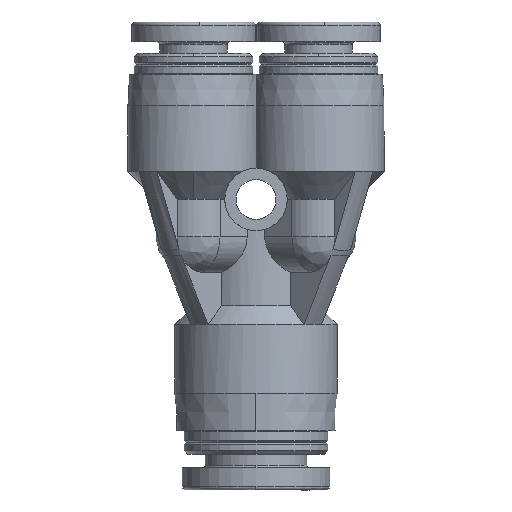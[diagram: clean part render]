
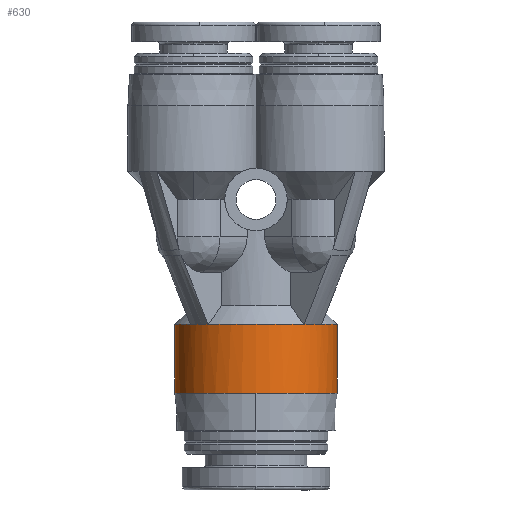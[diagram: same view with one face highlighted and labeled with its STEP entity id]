
A CAD part, front view. The second image highlights one B-rep face of the part: STEP entity #630.
In plain terms, the highlighted cylindrical face has radius 6.5 mm (diameter 13 mm), a partial arc.
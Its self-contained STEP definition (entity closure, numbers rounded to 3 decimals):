
#21 = CIRCLE ( 'NONE', #826, 6.5 ) ;
#215 = ORIENTED_EDGE ( 'NONE', *, *, #3626, .T. ) ;
#462 = VERTEX_POINT ( 'NONE', #7242 ) ;
#572 = B_SPLINE_CURVE_WITH_KNOTS ( 'NONE', 3,
 ( #2315, #4683, #1646, #8461 ),
 .UNSPECIFIED., .F., .F.,
 ( 4, 4 ),
 ( 0., 0.002 ),
 .UNSPECIFIED. ) ;
#630 = ADVANCED_FACE ( '112', ( #6732 ), #740, .T. ) ;
#637 = CARTESIAN_POINT ( 'NONE',  ( -3.834, -5.249, -10. ) ) ;
#726 = VERTEX_POINT ( 'NONE', #1402 ) ;
#740 = CYLINDRICAL_SURFACE ( 'NONE', #6480, 6.5 ) ;
#826 = AXIS2_PLACEMENT_3D ( 'NONE', #1593, #5645, #829 ) ;
#829 = DIRECTION ( 'NONE',  ( 1., 0., 0. ) ) ;
#830 = ORIENTED_EDGE ( 'NONE', *, *, #4265, .T. ) ;
#1118 = VERTEX_POINT ( 'NONE', #7107 ) ;
#1363 = ORIENTED_EDGE ( 'NONE', *, *, #4353, .T. ) ;
#1402 = CARTESIAN_POINT ( 'NONE',  ( -5.249, -3.834, -10. ) ) ;
#1501 = CARTESIAN_POINT ( 'NONE',  ( -6.5, 0., -15.5 ) ) ;
#1552 = B_SPLINE_CURVE_WITH_KNOTS ( 'NONE', 3,
 ( #6041, #6858, #8432, #9187 ),
 .UNSPECIFIED., .F., .F.,
 ( 4, 4 ),
 ( 0., 0.002 ),
 .UNSPECIFIED. ) ;
#1593 = CARTESIAN_POINT ( 'NONE',  ( 0., 0., -10. ) ) ;
#1646 = CARTESIAN_POINT ( 'NONE',  ( 4.375, -4.853, -10. ) ) ;
#1878 = CARTESIAN_POINT ( 'NONE',  ( 0., 0., -10. ) ) ;
#2123 = AXIS2_PLACEMENT_3D ( 'NONE', #6733, #5310, #9072 ) ;
#2315 = CARTESIAN_POINT ( 'NONE',  ( 5.249, -3.834, -10. ) ) ;
#2348 = EDGE_CURVE ( 'NONE', #5759, #7810, #9906, .T. ) ;
#2357 = VERTEX_POINT ( 'NONE', #5874 ) ;
#2378 = VERTEX_POINT ( 'NONE', #637 ) ;
#2540 = DIRECTION ( 'NONE',  ( 0., 0., -1. ) ) ;
#2604 = VECTOR ( 'NONE', #8720, 1000. ) ;
#2842 = EDGE_CURVE ( 'NONE', #2357, #3528, #572, .T. ) ;
#2993 = DIRECTION ( 'NONE',  ( 0., 0., -1. ) ) ;
#3378 = CIRCLE ( 'NONE', #10024, 6.5 ) ;
#3436 = EDGE_CURVE ( 'NONE', #7810, #462, #6122, .T. ) ;
#3528 = VERTEX_POINT ( 'NONE', #7294 ) ;
#3539 = AXIS2_PLACEMENT_3D ( 'NONE', #4806, #7861, #5571 ) ;
#3626 = EDGE_CURVE ( 'NONE', #3528, #2378, #3378, .T. ) ;
#3808 = DIRECTION ( 'NONE',  ( 1., 0., 0. ) ) ;
#4084 = ORIENTED_EDGE ( 'NONE', *, *, #5619, .T. ) ;
#4265 = EDGE_CURVE ( 'NONE', #2378, #726, #1552, .T. ) ;
#4353 = EDGE_CURVE ( 'NONE', #5759, #7261, #7093, .T. ) ;
#4607 = DIRECTION ( 'NONE',  ( 0., 0., 1. ) ) ;
#4683 = CARTESIAN_POINT ( 'NONE',  ( 4.853, -4.375, -10. ) ) ;
#4733 = CARTESIAN_POINT ( 'NONE',  ( 0., -6.5, -15.5 ) ) ;
#4806 = CARTESIAN_POINT ( 'NONE',  ( 0., 0., -15.5 ) ) ;
#5053 = ORIENTED_EDGE ( 'NONE', *, *, #3436, .F. ) ;
#5153 = CARTESIAN_POINT ( 'NONE',  ( 0., 0., -15.5 ) ) ;
#5297 = LINE ( 'NONE', #1501, #7653 ) ;
#5310 = DIRECTION ( 'NONE',  ( 0., 0., -1. ) ) ;
#5571 = DIRECTION ( 'NONE',  ( -0.996, 0.085, 0. ) ) ;
#5573 = CARTESIAN_POINT ( 'NONE',  ( 6.5, 0., -15.5 ) ) ;
#5619 = EDGE_CURVE ( 'NONE', #7261, #2357, #9407, .T. ) ;
#5645 = DIRECTION ( 'NONE',  ( 0., 0., -1. ) ) ;
#5661 = EDGE_LOOP ( 'NONE', ( #6453, #5053, #7494, #1363, #4084, #9366, #215, #830, #6534 ) ) ;
#5759 = VERTEX_POINT ( 'NONE', #7754 ) ;
#5874 = CARTESIAN_POINT ( 'NONE',  ( 5.249, -3.834, -10. ) ) ;
#6041 = CARTESIAN_POINT ( 'NONE',  ( -3.834, -5.249, -10. ) ) ;
#6122 = CIRCLE ( 'NONE', #3539, 6.5 ) ;
#6228 = EDGE_CURVE ( 'NONE', #462, #1118, #5297, .T. ) ;
#6347 = EDGE_CURVE ( 'NONE', #726, #1118, #21, .T. ) ;
#6453 = ORIENTED_EDGE ( 'NONE', *, *, #6228, .F. ) ;
#6461 = CARTESIAN_POINT ( 'NONE',  ( 6.5, 0., -10. ) ) ;
#6480 = AXIS2_PLACEMENT_3D ( 'NONE', #5153, #4607, #9128 ) ;
#6534 = ORIENTED_EDGE ( 'NONE', *, *, #6347, .T. ) ;
#6732 = FACE_OUTER_BOUND ( 'NONE', #5661, .T. ) ;
#6733 = CARTESIAN_POINT ( 'NONE',  ( 0., 0., -15.5 ) ) ;
#6841 = CARTESIAN_POINT ( 'NONE',  ( 0., 0., -10. ) ) ;
#6858 = CARTESIAN_POINT ( 'NONE',  ( -4.375, -4.853, -10. ) ) ;
#7093 = LINE ( 'NONE', #5573, #2604 ) ;
#7098 = DIRECTION ( 'NONE',  ( 1., 0., 0. ) ) ;
#7107 = CARTESIAN_POINT ( 'NONE',  ( -6.5, 0., -10. ) ) ;
#7242 = CARTESIAN_POINT ( 'NONE',  ( -6.5, 0., -15.5 ) ) ;
#7261 = VERTEX_POINT ( 'NONE', #6461 ) ;
#7294 = CARTESIAN_POINT ( 'NONE',  ( 3.834, -5.249, -10. ) ) ;
#7494 = ORIENTED_EDGE ( 'NONE', *, *, #2348, .F. ) ;
#7653 = VECTOR ( 'NONE', #7692, 1000. ) ;
#7692 = DIRECTION ( 'NONE',  ( 0., 0., 1. ) ) ;
#7754 = CARTESIAN_POINT ( 'NONE',  ( 6.5, 0., -15.5 ) ) ;
#7810 = VERTEX_POINT ( 'NONE', #4733 ) ;
#7861 = DIRECTION ( 'NONE',  ( 0., 0., -1. ) ) ;
#8432 = CARTESIAN_POINT ( 'NONE',  ( -4.853, -4.375, -10. ) ) ;
#8455 = AXIS2_PLACEMENT_3D ( 'NONE', #1878, #2540, #7098 ) ;
#8461 = CARTESIAN_POINT ( 'NONE',  ( 3.834, -5.249, -10. ) ) ;
#8720 = DIRECTION ( 'NONE',  ( 0., 0., 1. ) ) ;
#9072 = DIRECTION ( 'NONE',  ( -0.996, 0.085, 0. ) ) ;
#9128 = DIRECTION ( 'NONE',  ( 1., 0., 0. ) ) ;
#9187 = CARTESIAN_POINT ( 'NONE',  ( -5.249, -3.834, -10. ) ) ;
#9366 = ORIENTED_EDGE ( 'NONE', *, *, #2842, .T. ) ;
#9407 = CIRCLE ( 'NONE', #8455, 6.5 ) ;
#9906 = CIRCLE ( 'NONE', #2123, 6.5 ) ;
#10024 = AXIS2_PLACEMENT_3D ( 'NONE', #6841, #2993, #3808 ) ;
